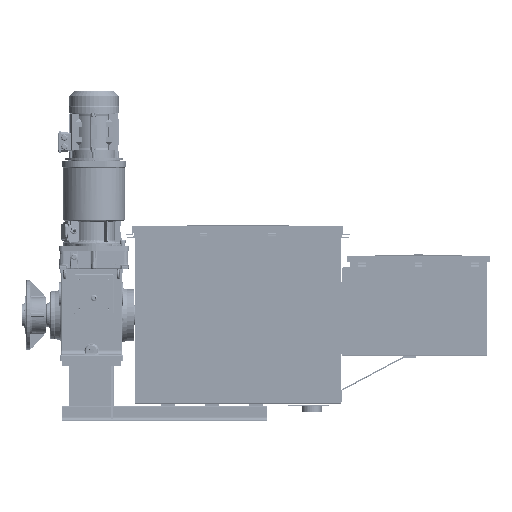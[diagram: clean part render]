
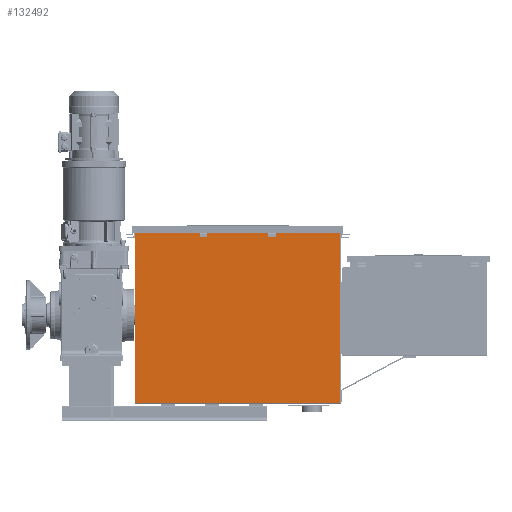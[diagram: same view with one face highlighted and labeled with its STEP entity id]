
A CAD part, top view. The second image highlights one B-rep face of the part: STEP entity #132492.
In plain terms, the highlighted planar face has unit normal (0, 0, 1).
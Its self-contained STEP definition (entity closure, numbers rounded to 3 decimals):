
#4998=LINE('',#186808,#16109);
#5015=LINE('',#186853,#16126);
#5017=LINE('',#186857,#16128);
#5018=LINE('',#186859,#16129);
#5019=LINE('',#186868,#16130);
#5036=LINE('',#186913,#16147);
#5038=LINE('',#186917,#16149);
#5039=LINE('',#186919,#16150);
#5277=LINE('',#187646,#16388);
#5280=LINE('',#187652,#16391);
#5283=LINE('',#187659,#16394);
#5286=LINE('',#187663,#16397);
#5292=LINE('',#187675,#16403);
#5294=LINE('',#187679,#16405);
#5296=LINE('',#187682,#16407);
#5297=LINE('',#187685,#16408);
#5298=LINE('',#187687,#16409);
#5299=LINE('',#187688,#16410);
#5300=LINE('',#187690,#16411);
#5301=LINE('',#187691,#16412);
#16109=VECTOR('',#152255,40.);
#16126=VECTOR('',#152298,40.);
#16128=VECTOR('',#152302,40.);
#16129=VECTOR('',#152305,40.);
#16130=VECTOR('',#152314,40.);
#16147=VECTOR('',#152357,40.);
#16149=VECTOR('',#152361,40.);
#16150=VECTOR('',#152364,40.);
#16388=VECTOR('',#153096,945.);
#16391=VECTOR('',#153101,0.992);
#16394=VECTOR('',#153106,2.976);
#16397=VECTOR('',#153111,1.984);
#16403=VECTOR('',#153121,2.976);
#16405=VECTOR('',#153125,0.992);
#16407=VECTOR('',#153129,1.984);
#16408=VECTOR('',#153132,51.016);
#16409=VECTOR('',#153133,894.016);
#16410=VECTOR('',#153134,1051.);
#16411=VECTOR('',#153135,894.016);
#16412=VECTOR('',#153136,51.016);
#27114=PLANE('',#140146);
#31097=FACE_BOUND('',#40713,.T.);
#31098=FACE_BOUND('',#40714,.T.);
#33183=FACE_OUTER_BOUND('',#40712,.T.);
#40712=EDGE_LOOP('',(#87075,#87076,#87077,#87078,#87079,#87080,#87081,#87082,
#87083,#87084,#87085,#87086));
#40713=EDGE_LOOP('',(#87087,#87088,#87089,#87090));
#40714=EDGE_LOOP('',(#87091,#87092,#87093,#87094));
#54428=VERTEX_POINT('',#186806);
#54429=VERTEX_POINT('',#186807);
#54444=VERTEX_POINT('',#186851);
#54445=VERTEX_POINT('',#186855);
#54448=VERTEX_POINT('',#186866);
#54449=VERTEX_POINT('',#186867);
#54464=VERTEX_POINT('',#186911);
#54465=VERTEX_POINT('',#186915);
#54606=VERTEX_POINT('',#187330);
#54706=VERTEX_POINT('',#187638);
#54707=VERTEX_POINT('',#187642);
#54709=VERTEX_POINT('',#187650);
#54711=VERTEX_POINT('',#187656);
#54712=VERTEX_POINT('',#187658);
#54715=VERTEX_POINT('',#187672);
#54716=VERTEX_POINT('',#187674);
#54717=VERTEX_POINT('',#187678);
#54718=VERTEX_POINT('',#187684);
#54719=VERTEX_POINT('',#187686);
#54720=VERTEX_POINT('',#187689);
#67014=EDGE_CURVE('',#54428,#54429,#4998,.T.);
#67037=EDGE_CURVE('',#54429,#54444,#5015,.T.);
#67039=EDGE_CURVE('',#54445,#54428,#5017,.T.);
#67040=EDGE_CURVE('',#54444,#54445,#5018,.T.);
#67043=EDGE_CURVE('',#54448,#54449,#5019,.T.);
#67066=EDGE_CURVE('',#54449,#54464,#5036,.T.);
#67068=EDGE_CURVE('',#54465,#54448,#5038,.T.);
#67069=EDGE_CURVE('',#54464,#54465,#5039,.T.);
#67418=EDGE_CURVE('',#54706,#54707,#5277,.T.);
#67421=EDGE_CURVE('',#54707,#54709,#5280,.T.);
#67424=EDGE_CURVE('',#54712,#54711,#5283,.T.);
#67427=EDGE_CURVE('',#54709,#54712,#5286,.T.);
#67433=EDGE_CURVE('',#54716,#54715,#5292,.T.);
#67435=EDGE_CURVE('',#54717,#54706,#5294,.T.);
#67437=EDGE_CURVE('',#54715,#54717,#5296,.T.);
#67438=EDGE_CURVE('',#54718,#54711,#5297,.T.);
#67439=EDGE_CURVE('',#54719,#54718,#5298,.T.);
#67440=EDGE_CURVE('',#54719,#54606,#5299,.T.);
#67441=EDGE_CURVE('',#54720,#54606,#5300,.T.);
#67442=EDGE_CURVE('',#54716,#54720,#5301,.T.);
#87075=ORIENTED_EDGE('',*,*,#67424,.T.);
#87076=ORIENTED_EDGE('',*,*,#67438,.F.);
#87077=ORIENTED_EDGE('',*,*,#67439,.F.);
#87078=ORIENTED_EDGE('',*,*,#67440,.T.);
#87079=ORIENTED_EDGE('',*,*,#67441,.F.);
#87080=ORIENTED_EDGE('',*,*,#67442,.F.);
#87081=ORIENTED_EDGE('',*,*,#67433,.T.);
#87082=ORIENTED_EDGE('',*,*,#67437,.T.);
#87083=ORIENTED_EDGE('',*,*,#67435,.T.);
#87084=ORIENTED_EDGE('',*,*,#67418,.T.);
#87085=ORIENTED_EDGE('',*,*,#67421,.T.);
#87086=ORIENTED_EDGE('',*,*,#67427,.T.);
#87087=ORIENTED_EDGE('',*,*,#67014,.T.);
#87088=ORIENTED_EDGE('',*,*,#67037,.T.);
#87089=ORIENTED_EDGE('',*,*,#67040,.T.);
#87090=ORIENTED_EDGE('',*,*,#67039,.T.);
#87091=ORIENTED_EDGE('',*,*,#67043,.T.);
#87092=ORIENTED_EDGE('',*,*,#67066,.T.);
#87093=ORIENTED_EDGE('',*,*,#67069,.T.);
#87094=ORIENTED_EDGE('',*,*,#67068,.T.);
#132492=ADVANCED_FACE('',(#33183,#31097,#31098),#27114,.F.);
#140146=AXIS2_PLACEMENT_3D('',#187683,#153130,#153131);
#152255=DIRECTION('',(0.,-1.,0.));
#152298=DIRECTION('',(-1.,0.,0.));
#152302=DIRECTION('',(1.,0.,0.));
#152305=DIRECTION('',(0.,1.,0.));
#152314=DIRECTION('',(0.,-1.,0.));
#152357=DIRECTION('',(-1.,0.,0.));
#152361=DIRECTION('',(1.,0.,0.));
#152364=DIRECTION('',(0.,1.,0.));
#153096=DIRECTION('',(-1.,0.,0.));
#153101=DIRECTION('',(0.,-1.,0.));
#153106=DIRECTION('',(0.,1.,0.));
#153111=DIRECTION('',(-1.,0.,0.));
#153121=DIRECTION('',(0.,-1.,0.));
#153125=DIRECTION('',(0.,1.,0.));
#153129=DIRECTION('',(-1.,0.,0.));
#153130=DIRECTION('center_axis',(0.,0.,
-1.));
#153131=DIRECTION('ref_axis',(-1.,0.,0.));
#153132=DIRECTION('',(1.,0.,0.));
#153133=DIRECTION('',(0.,1.,0.));
#153134=DIRECTION('',(1.,0.,0.));
#153135=DIRECTION('',(0.,-1.,0.));
#153136=DIRECTION('',(1.,0.,0.));
#186806=CARTESIAN_POINT('',(983.802,377.411,301.019));
#186807=CARTESIAN_POINT('',(983.802,337.411,301.019));
#186808=CARTESIAN_POINT('',(983.802,140.33,301.019));
#186851=CARTESIAN_POINT('',(943.802,337.411,301.019));
#186853=CARTESIAN_POINT('',(876.302,337.411,301.019));
#186855=CARTESIAN_POINT('',(943.802,377.411,301.019));
#186857=CARTESIAN_POINT('',(876.302,377.411,301.019));
#186859=CARTESIAN_POINT('',(943.802,140.33,301.019));
#186866=CARTESIAN_POINT('',(633.802,377.411,301.019));
#186867=CARTESIAN_POINT('',(633.802,337.411,301.019));
#186868=CARTESIAN_POINT('',(633.802,140.33,301.019));
#186911=CARTESIAN_POINT('',(593.802,337.411,301.019));
#186913=CARTESIAN_POINT('',(701.302,337.411,301.019));
#186915=CARTESIAN_POINT('',(593.802,377.411,301.019));
#186917=CARTESIAN_POINT('',(701.302,377.411,301.019));
#186919=CARTESIAN_POINT('',(593.802,140.33,301.019));
#187330=CARTESIAN_POINT('',(1314.302,-510.889,301.019));
#187638=CARTESIAN_POINT('',(1261.302,381.143,301.019));
#187642=CARTESIAN_POINT('',(316.302,381.143,301.019));
#187646=CARTESIAN_POINT('',(552.552,381.143,301.019));
#187650=CARTESIAN_POINT('',(316.302,380.151,301.019));
#187652=CARTESIAN_POINT('',(316.302,155.763,301.019));
#187656=CARTESIAN_POINT('',(314.319,383.127,301.019));
#187658=CARTESIAN_POINT('',(314.319,380.151,301.019));
#187659=CARTESIAN_POINT('',(314.319,157.251,301.019));
#187663=CARTESIAN_POINT('',(551.56,380.151,301.019));
#187672=CARTESIAN_POINT('',(1263.286,380.151,301.019));
#187674=CARTESIAN_POINT('',(1263.286,383.127,301.019));
#187675=CARTESIAN_POINT('',(1263.286,155.763,301.019));
#187678=CARTESIAN_POINT('',(1261.302,380.151,301.019));
#187679=CARTESIAN_POINT('',(1261.302,157.251,301.019));
#187682=CARTESIAN_POINT('',(1025.052,380.151,301.019));
#187683=CARTESIAN_POINT('Origin',(788.802,-68.625,301.019));
#187684=CARTESIAN_POINT('',(263.302,383.127,301.019));
#187685=CARTESIAN_POINT('',(263.302,383.127,301.019));
#187686=CARTESIAN_POINT('',(263.302,-510.889,301.019));
#187687=CARTESIAN_POINT('',(263.302,-510.889,301.019));
#187688=CARTESIAN_POINT('',(788.802,-510.889,301.019));
#187689=CARTESIAN_POINT('',(1314.302,383.127,301.019));
#187690=CARTESIAN_POINT('',(1314.302,-519.864,301.019));
#187691=CARTESIAN_POINT('',(263.302,383.127,301.019));
